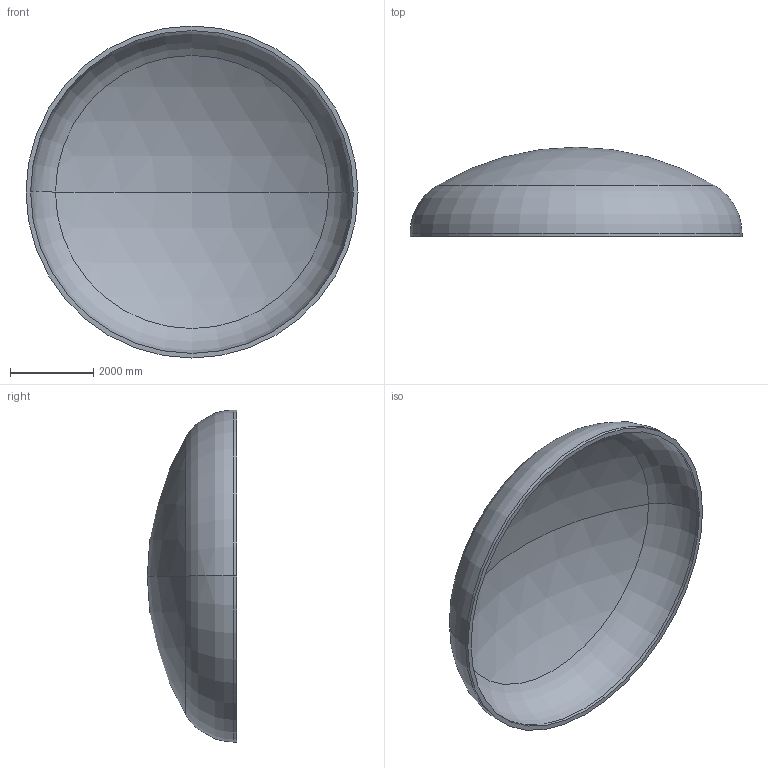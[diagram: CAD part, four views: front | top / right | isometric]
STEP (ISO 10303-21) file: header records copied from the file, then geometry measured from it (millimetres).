
FILE_DESCRIPTION (( 'STEP AP203' ), '1' );
FILE_NAME ('DIN 28013 Korbbogenform_-_Boden DIN 28013 - 8000 x 75 - I - s=112.step', '2016-07-04T11:05:49', ( '' ), ( '' ), 'SwSTEP 2.0', 'SolidWorks 2013', '' );
FILE_SCHEMA (( 'CONFIG_CONTROL_DESIGN' ));
Length unit declared in the file: millimetre
Products named in the file (1): DIN 28013 Korbbogenform_-_Boden DIN 28013 - 8000 x 75 - I - s=112
Bounding box: 8000 x 2152.6 x 8000 mm (x, y, z)
Volume: 7859912514.1 mm3; surface area: 143157257.3 mm2
Topology: 1 solids, 1 shells, 13 faces, 24 edges, 14 vertices
Faces by surface type: torus 4, cylinder 4, sphere 4, plane 1
Entity records: 407 total; most frequent: DIRECTION 72, CARTESIAN_POINT 52, ORIENTED_EDGE 48, AXIS2_PLACEMENT_3D 34, EDGE_CURVE 24, CIRCLE 20, EDGE_LOOP 14, VERTEX_POINT 14
